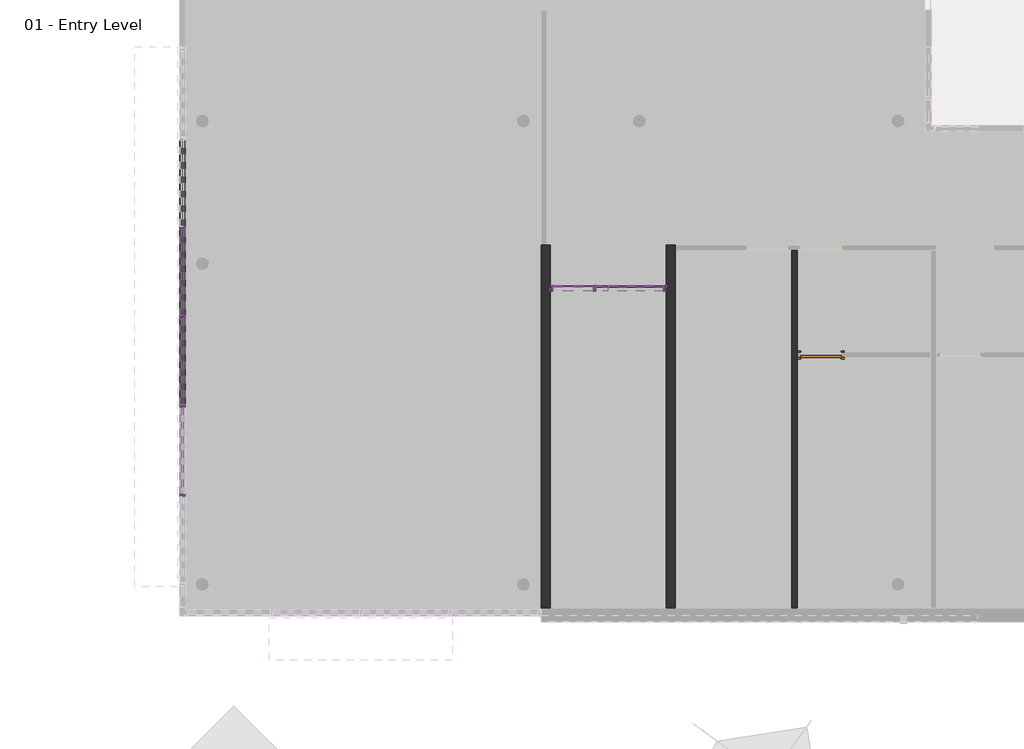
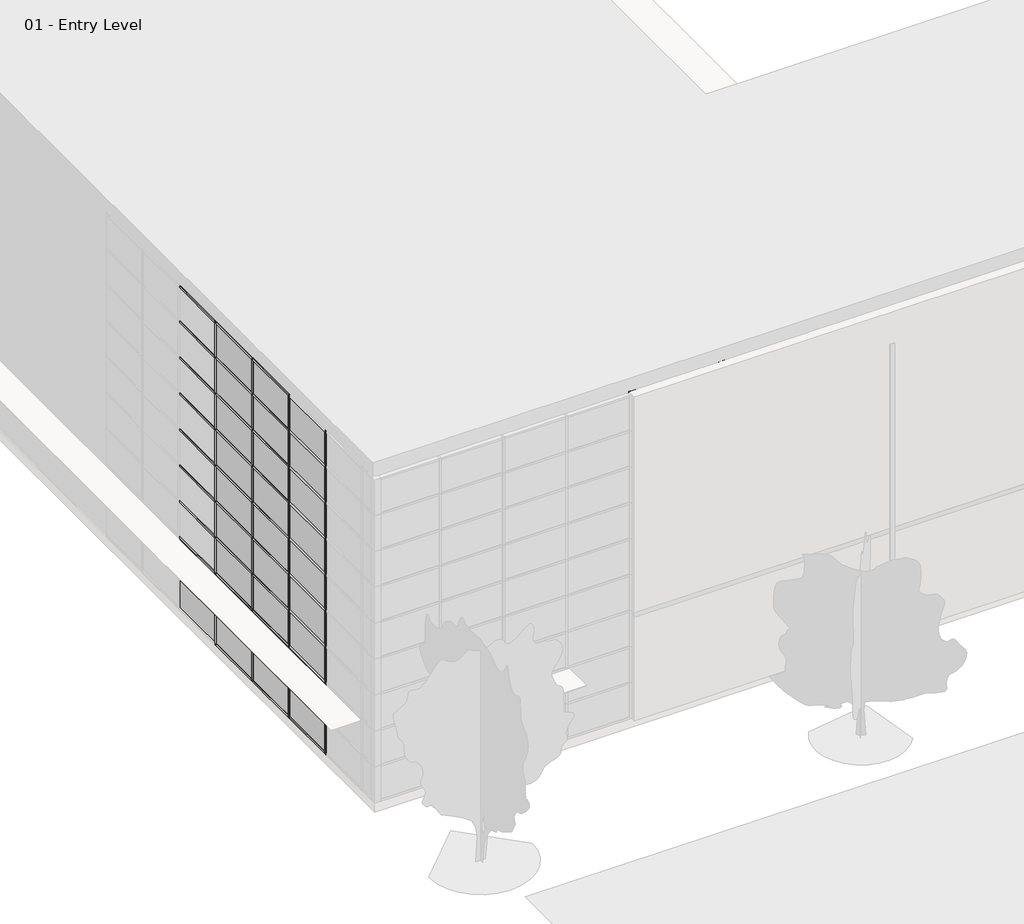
# One storey, part 7 of 34: 84 members, 33 plates, 3 walls, 2 doors.
"""IFC4 building model written with IfcOpenShell, lengths in millimetres."""

from ifc_helpers import new_model, si_unit, origin, place, context, project, spatial, faceted_brep, transform, mapped, element, save
from components import curtain_wall_sgl_glass_curtain_wall_sgl_glass_c2d4b377, door_a1797ceb, member_2b49869a, member_18e22e2d, member_9193c932, member_391b434c, member_9e90ae50, member_6186cc23, member_5d67b9fc, member_c327c56d, member_a50b3cda, member_410c6227, member_73c23c35, member_bcb6a316, member_d3323a85, member_7bd2cd2c, member_6be37683, system_panel_glazed_1b9d6098, system_panel_glazed_70da479d, system_panel_glazed_652e8fc4, system_panel_glazed_8dc8626f, system_panel_glazed_561e95a3, system_panel_glazed_c516a964, system_panel_solid_b376696c, system_panel_solid_77e8b053

model = new_model("IFC4")

# Units and contexts
model_context = context("Model", 3, world=origin())
ifc_project = project(units=[si_unit("LENGTHUNIT", "METRE", prefix="MILLI")], contexts=[model_context])

# Site, building, storey
site = spatial("IfcSite", under=ifc_project)
building = spatial("IfcBuilding", under=site)
storey = spatial("IfcBuildingStorey", under=building, Name="01 - Entry Level", Elevation=0.0)

# Doors
placement = place(None, origin())
curtain_wall_sgl_glass_curtain_wall_sgl_glass_shape = curtain_wall_sgl_glass_curtain_wall_sgl_glass_c2d4b377(model_context)
element("IfcDoor", 1, ObjectType="Curtain Wall Sgl Glass : Curtain Wall Sgl Glass", at=placement, inside=storey, context=model_context, shape_type="MappedRepresentation", body=[
    mapped(curtain_wall_sgl_glass_curtain_wall_sgl_glass_shape, transform((9081.4207476, 7356.4, 0.0), x_axis=(-1.0, 0.0, 0.0), y_axis=(0.0, -1.0, 0.0), z_axis=(0.0, 0.0, 1.0))),
])
door_shape = door_a1797ceb(model_context)
element("IfcDoor", 2, ObjectType="Single-Flush : 36\" x 84\"", at=placement, inside=storey, context=model_context, shape_type="MappedRepresentation", body=[
    mapped(door_shape, transform((14732.9207476, 5832.4, 0.0), x_axis=(-1.0, 0.0, 0.0), y_axis=(0.0, -1.0, 0.0), z_axis=(0.0, 0.0, 1.0))),
])

# Members
member_shape = member_2b49869a(model_context)
element("IfcMember", 3, ObjectType="Rectangular Mullion : 2.5\" x 5\" rectangular", at=placement, inside=storey, context=model_context, shape_type="MappedRepresentation", body=[
    mapped(member_shape, transform((178.7207476, 8728.0, 9753.6), x_axis=(0.0, -1.0, 0.0), y_axis=(-1.0, 0.0, 0.0), z_axis=(0.0, 0.0, -1.0))),
])
element("IfcMember", 4, ObjectType="Rectangular Mullion : 2.5\" x 5\" rectangular", at=placement, inside=storey, context=model_context, shape_type="MappedRepresentation", body=[
    mapped(member_shape, transform((178.7207476, 6696.0, 9753.6), x_axis=(0.0, -1.0, 0.0), y_axis=(-1.0, 0.0, 0.0), z_axis=(0.0, 0.0, -1.0))),
])
element("IfcMember", 5, ObjectType="Rectangular Mullion : 2.5\" x 5\" rectangular", at=placement, inside=storey, context=model_context, shape_type="MappedRepresentation", body=[
    mapped(member_shape, transform((178.7207476, 4664.0, 9753.6), x_axis=(0.0, -1.0, 0.0), y_axis=(-1.0, 0.0, 0.0), z_axis=(0.0, 0.0, -1.0))),
])
element("IfcMember", 6, ObjectType="Rectangular Mullion : 2.5\" x 5\" rectangular", at=placement, inside=storey, context=model_context, shape_type="MappedRepresentation", body=[
    mapped(member_shape, transform((178.7207476, 2632.0, 9753.6), x_axis=(0.0, -1.0, 0.0), y_axis=(-1.0, 0.0, 0.0), z_axis=(0.0, 0.0, -1.0))),
])
member_2_shape = member_18e22e2d(model_context)
element("IfcMember", 7, ObjectType="Rectangular Mullion : 2.5\" x 5\" rectangular", at=placement, inside=storey, context=model_context, shape_type="MappedRepresentation", body=[
    mapped(member_2_shape, transform((9570.3707476, 7356.4, 2438.4), x_axis=(-1.0, 0.0, 0.0), y_axis=(0.0, 1.0, 0.0), z_axis=(0.0, 0.0, -1.0))),
])
member_3_shape = member_9193c932(model_context)
element("IfcMember", 8, ObjectType="Rectangular Mullion : 2.5\" x 5\" rectangular", at=placement, inside=storey, context=model_context, shape_type="MappedRepresentation", body=[
    mapped(member_3_shape, transform((11202.3207476, 7356.4, 3403.6), x_axis=(1.0, 0.0, 0.0), y_axis=(0.0, 1.0, 0.0), z_axis=(0.0, 0.0, 1.0))),
])
element("IfcMember", 9, ObjectType="Rectangular Mullion : 2.5\" x 5\" rectangular", at=placement, inside=storey, context=model_context, shape_type="MappedRepresentation", body=[
    mapped(member_3_shape, transform((8560.7207476, 7356.4, 2438.4), x_axis=(-1.0, 0.0, 0.0), y_axis=(0.0, 1.0, 0.0), z_axis=(0.0, 0.0, -1.0))),
])
member_4_shape = member_391b434c(model_context)
element("IfcMember", 10, ObjectType="Rectangular Mullion : 2.5\" x 5\" rectangular", at=placement, inside=storey, context=model_context, shape_type="MappedRepresentation", body=[
    mapped(member_4_shape, transform((178.7207476, 8759.75, 10972.8), x_axis=(0.0, 0.0, 1.0), y_axis=(-1.0, 0.0, 0.0), z_axis=(0.0, -1.0, 0.0))),
])
element("IfcMember", 11, ObjectType="Rectangular Mullion : 2.5\" x 5\" rectangular", at=placement, inside=storey, context=model_context, shape_type="MappedRepresentation", body=[
    mapped(member_4_shape, transform((178.7207476, 6727.75, 10972.8), x_axis=(0.0, 0.0, 1.0), y_axis=(-1.0, 0.0, 0.0), z_axis=(0.0, -1.0, 0.0))),
])
element("IfcMember", 12, ObjectType="Rectangular Mullion : 2.5\" x 5\" rectangular", at=placement, inside=storey, context=model_context, shape_type="MappedRepresentation", body=[
    mapped(member_4_shape, transform((178.7207476, 4695.75, 10972.8), x_axis=(0.0, 0.0, 1.0), y_axis=(-1.0, 0.0, 0.0), z_axis=(0.0, -1.0, 0.0))),
])
element("IfcMember", 13, ObjectType="Rectangular Mullion : 2.5\" x 5\" rectangular", at=placement, inside=storey, context=model_context, shape_type="MappedRepresentation", body=[
    mapped(member_4_shape, transform((178.7207476, 8696.25, 0.0), x_axis=(0.0, 0.0, -1.0), y_axis=(-1.0, 0.0, 0.0), z_axis=(0.0, 1.0, 0.0))),
])
element("IfcMember", 14, ObjectType="Rectangular Mullion : 2.5\" x 5\" rectangular", at=placement, inside=storey, context=model_context, shape_type="MappedRepresentation", body=[
    mapped(member_4_shape, transform((178.7207476, 6664.25, 0.0), x_axis=(0.0, 0.0, -1.0), y_axis=(-1.0, 0.0, 0.0), z_axis=(0.0, 1.0, 0.0))),
])
element("IfcMember", 15, ObjectType="Rectangular Mullion : 2.5\" x 5\" rectangular", at=placement, inside=storey, context=model_context, shape_type="MappedRepresentation", body=[
    mapped(member_4_shape, transform((178.7207476, 4632.25, 0.0), x_axis=(0.0, 0.0, -1.0), y_axis=(-1.0, 0.0, 0.0), z_axis=(0.0, 1.0, 0.0))),
])
member_5_shape = member_9e90ae50(model_context)
element("IfcMember", 16, ObjectType="Rectangular Mullion : 2.5\" x 5\" rectangular", at=placement, inside=storey, context=model_context, shape_type="MappedRepresentation", body=[
    mapped(member_5_shape, transform((178.7207476, 8759.75, 1219.2), x_axis=(0.0, 0.0, 1.0), y_axis=(-1.0, 0.0, 0.0), z_axis=(0.0, -1.0, 0.0))),
])
element("IfcMember", 17, ObjectType="Rectangular Mullion : 2.5\" x 5\" rectangular", at=placement, inside=storey, context=model_context, shape_type="MappedRepresentation", body=[
    mapped(member_5_shape, transform((178.7207476, 6727.75, 1219.2), x_axis=(0.0, 0.0, 1.0), y_axis=(-1.0, 0.0, 0.0), z_axis=(0.0, -1.0, 0.0))),
])
element("IfcMember", 18, ObjectType="Rectangular Mullion : 2.5\" x 5\" rectangular", at=placement, inside=storey, context=model_context, shape_type="MappedRepresentation", body=[
    mapped(member_5_shape, transform((178.7207476, 4695.75, 1219.2), x_axis=(0.0, 0.0, 1.0), y_axis=(-1.0, 0.0, 0.0), z_axis=(0.0, -1.0, 0.0))),
])
element("IfcMember", 19, ObjectType="Rectangular Mullion : 2.5\" x 5\" rectangular", at=placement, inside=storey, context=model_context, shape_type="MappedRepresentation", body=[
    mapped(member_5_shape, transform((178.7207476, 8759.75, 2438.4), x_axis=(0.0, 0.0, 1.0), y_axis=(-1.0, 0.0, 0.0), z_axis=(0.0, -1.0, 0.0))),
])
element("IfcMember", 20, ObjectType="Rectangular Mullion : 2.5\" x 5\" rectangular", at=placement, inside=storey, context=model_context, shape_type="MappedRepresentation", body=[
    mapped(member_5_shape, transform((178.7207476, 6727.75, 2438.4), x_axis=(0.0, 0.0, 1.0), y_axis=(-1.0, 0.0, 0.0), z_axis=(0.0, -1.0, 0.0))),
])
element("IfcMember", 21, ObjectType="Rectangular Mullion : 2.5\" x 5\" rectangular", at=placement, inside=storey, context=model_context, shape_type="MappedRepresentation", body=[
    mapped(member_5_shape, transform((178.7207476, 4695.75, 2438.4), x_axis=(0.0, 0.0, 1.0), y_axis=(-1.0, 0.0, 0.0), z_axis=(0.0, -1.0, 0.0))),
])
element("IfcMember", 22, ObjectType="Rectangular Mullion : 2.5\" x 5\" rectangular", at=placement, inside=storey, context=model_context, shape_type="MappedRepresentation", body=[
    mapped(member_5_shape, transform((178.7207476, 8759.75, 3657.6), x_axis=(0.0, 0.0, 1.0), y_axis=(-1.0, 0.0, 0.0), z_axis=(0.0, -1.0, 0.0))),
])
element("IfcMember", 23, ObjectType="Rectangular Mullion : 2.5\" x 5\" rectangular", at=placement, inside=storey, context=model_context, shape_type="MappedRepresentation", body=[
    mapped(member_5_shape, transform((178.7207476, 6727.75, 3657.6), x_axis=(0.0, 0.0, 1.0), y_axis=(-1.0, 0.0, 0.0), z_axis=(0.0, -1.0, 0.0))),
])
element("IfcMember", 24, ObjectType="Rectangular Mullion : 2.5\" x 5\" rectangular", at=placement, inside=storey, context=model_context, shape_type="MappedRepresentation", body=[
    mapped(member_5_shape, transform((178.7207476, 4695.75, 3657.6), x_axis=(0.0, 0.0, 1.0), y_axis=(-1.0, 0.0, 0.0), z_axis=(0.0, -1.0, 0.0))),
])
element("IfcMember", 25, ObjectType="Rectangular Mullion : 2.5\" x 5\" rectangular", at=placement, inside=storey, context=model_context, shape_type="MappedRepresentation", body=[
    mapped(member_5_shape, transform((178.7207476, 8759.75, 4876.8), x_axis=(0.0, 0.0, 1.0), y_axis=(-1.0, 0.0, 0.0), z_axis=(0.0, -1.0, 0.0))),
])
element("IfcMember", 26, ObjectType="Rectangular Mullion : 2.5\" x 5\" rectangular", at=placement, inside=storey, context=model_context, shape_type="MappedRepresentation", body=[
    mapped(member_5_shape, transform((178.7207476, 6727.75, 4876.8), x_axis=(0.0, 0.0, 1.0), y_axis=(-1.0, 0.0, 0.0), z_axis=(0.0, -1.0, 0.0))),
])
element("IfcMember", 27, ObjectType="Rectangular Mullion : 2.5\" x 5\" rectangular", at=placement, inside=storey, context=model_context, shape_type="MappedRepresentation", body=[
    mapped(member_5_shape, transform((178.7207476, 4695.75, 4876.8), x_axis=(0.0, 0.0, 1.0), y_axis=(-1.0, 0.0, 0.0), z_axis=(0.0, -1.0, 0.0))),
])
element("IfcMember", 28, ObjectType="Rectangular Mullion : 2.5\" x 5\" rectangular", at=placement, inside=storey, context=model_context, shape_type="MappedRepresentation", body=[
    mapped(member_5_shape, transform((178.7207476, 8759.75, 6096.0), x_axis=(0.0, 0.0, 1.0), y_axis=(-1.0, 0.0, 0.0), z_axis=(0.0, -1.0, 0.0))),
])
element("IfcMember", 29, ObjectType="Rectangular Mullion : 2.5\" x 5\" rectangular", at=placement, inside=storey, context=model_context, shape_type="MappedRepresentation", body=[
    mapped(member_5_shape, transform((178.7207476, 6727.75, 6096.0), x_axis=(0.0, 0.0, 1.0), y_axis=(-1.0, 0.0, 0.0), z_axis=(0.0, -1.0, 0.0))),
])
element("IfcMember", 30, ObjectType="Rectangular Mullion : 2.5\" x 5\" rectangular", at=placement, inside=storey, context=model_context, shape_type="MappedRepresentation", body=[
    mapped(member_5_shape, transform((178.7207476, 4695.75, 6096.0), x_axis=(0.0, 0.0, 1.0), y_axis=(-1.0, 0.0, 0.0), z_axis=(0.0, -1.0, 0.0))),
])
element("IfcMember", 31, ObjectType="Rectangular Mullion : 2.5\" x 5\" rectangular", at=placement, inside=storey, context=model_context, shape_type="MappedRepresentation", body=[
    mapped(member_5_shape, transform((178.7207476, 8759.75, 7315.2), x_axis=(0.0, 0.0, 1.0), y_axis=(-1.0, 0.0, 0.0), z_axis=(0.0, -1.0, 0.0))),
])
element("IfcMember", 32, ObjectType="Rectangular Mullion : 2.5\" x 5\" rectangular", at=placement, inside=storey, context=model_context, shape_type="MappedRepresentation", body=[
    mapped(member_5_shape, transform((178.7207476, 6727.75, 7315.2), x_axis=(0.0, 0.0, 1.0), y_axis=(-1.0, 0.0, 0.0), z_axis=(0.0, -1.0, 0.0))),
])
element("IfcMember", 33, ObjectType="Rectangular Mullion : 2.5\" x 5\" rectangular", at=placement, inside=storey, context=model_context, shape_type="MappedRepresentation", body=[
    mapped(member_5_shape, transform((178.7207476, 4695.75, 7315.2), x_axis=(0.0, 0.0, 1.0), y_axis=(-1.0, 0.0, 0.0), z_axis=(0.0, -1.0, 0.0))),
])
element("IfcMember", 34, ObjectType="Rectangular Mullion : 2.5\" x 5\" rectangular", at=placement, inside=storey, context=model_context, shape_type="MappedRepresentation", body=[
    mapped(member_5_shape, transform((178.7207476, 8759.75, 8534.4), x_axis=(0.0, 0.0, 1.0), y_axis=(-1.0, 0.0, 0.0), z_axis=(0.0, -1.0, 0.0))),
])
element("IfcMember", 35, ObjectType="Rectangular Mullion : 2.5\" x 5\" rectangular", at=placement, inside=storey, context=model_context, shape_type="MappedRepresentation", body=[
    mapped(member_5_shape, transform((178.7207476, 6727.75, 8534.4), x_axis=(0.0, 0.0, 1.0), y_axis=(-1.0, 0.0, 0.0), z_axis=(0.0, -1.0, 0.0))),
])
element("IfcMember", 36, ObjectType="Rectangular Mullion : 2.5\" x 5\" rectangular", at=placement, inside=storey, context=model_context, shape_type="MappedRepresentation", body=[
    mapped(member_5_shape, transform((178.7207476, 4695.75, 8534.4), x_axis=(0.0, 0.0, 1.0), y_axis=(-1.0, 0.0, 0.0), z_axis=(0.0, -1.0, 0.0))),
])
element("IfcMember", 37, ObjectType="Rectangular Mullion : 2.5\" x 5\" rectangular", at=placement, inside=storey, context=model_context, shape_type="MappedRepresentation", body=[
    mapped(member_5_shape, transform((178.7207476, 8759.75, 9753.6), x_axis=(0.0, 0.0, 1.0), y_axis=(-1.0, 0.0, 0.0), z_axis=(0.0, -1.0, 0.0))),
])
element("IfcMember", 38, ObjectType="Rectangular Mullion : 2.5\" x 5\" rectangular", at=placement, inside=storey, context=model_context, shape_type="MappedRepresentation", body=[
    mapped(member_5_shape, transform((178.7207476, 6727.75, 9753.6), x_axis=(0.0, 0.0, 1.0), y_axis=(-1.0, 0.0, 0.0), z_axis=(0.0, -1.0, 0.0))),
])
element("IfcMember", 39, ObjectType="Rectangular Mullion : 2.5\" x 5\" rectangular", at=placement, inside=storey, context=model_context, shape_type="MappedRepresentation", body=[
    mapped(member_5_shape, transform((178.7207476, 4695.75, 9753.6), x_axis=(0.0, 0.0, 1.0), y_axis=(-1.0, 0.0, 0.0), z_axis=(0.0, -1.0, 0.0))),
])
element("IfcMember", 40, ObjectType="Rectangular Mullion : 2.5\" x 5\" rectangular", at=placement, inside=storey, context=model_context, shape_type="MappedRepresentation", body=[
    mapped(member_shape, transform((178.7207476, 8728.0, 0.0), x_axis=(0.0, -1.0, 0.0), y_axis=(-1.0, 0.0, 0.0), z_axis=(0.0, 0.0, -1.0))),
])
element("IfcMember", 41, ObjectType="Rectangular Mullion : 2.5\" x 5\" rectangular", at=placement, inside=storey, context=model_context, shape_type="MappedRepresentation", body=[
    mapped(member_shape, transform((178.7207476, 6696.0, 0.0), x_axis=(0.0, -1.0, 0.0), y_axis=(-1.0, 0.0, 0.0), z_axis=(0.0, 0.0, -1.0))),
])
element("IfcMember", 42, ObjectType="Rectangular Mullion : 2.5\" x 5\" rectangular", at=placement, inside=storey, context=model_context, shape_type="MappedRepresentation", body=[
    mapped(member_shape, transform((178.7207476, 4664.0, 0.0), x_axis=(0.0, -1.0, 0.0), y_axis=(-1.0, 0.0, 0.0), z_axis=(0.0, 0.0, -1.0))),
])
element("IfcMember", 43, ObjectType="Rectangular Mullion : 2.5\" x 5\" rectangular", at=placement, inside=storey, context=model_context, shape_type="MappedRepresentation", body=[
    mapped(member_shape, transform((178.7207476, 2632.0, 0.0), x_axis=(0.0, -1.0, 0.0), y_axis=(-1.0, 0.0, 0.0), z_axis=(0.0, 0.0, -1.0))),
])
element("IfcMember", 44, ObjectType="Rectangular Mullion : 2.5\" x 5\" rectangular", at=placement, inside=storey, context=model_context, shape_type="MappedRepresentation", body=[
    mapped(member_shape, transform((178.7207476, 8728.0, 1219.2), x_axis=(0.0, -1.0, 0.0), y_axis=(-1.0, 0.0, 0.0), z_axis=(0.0, 0.0, -1.0))),
])
element("IfcMember", 45, ObjectType="Rectangular Mullion : 2.5\" x 5\" rectangular", at=placement, inside=storey, context=model_context, shape_type="MappedRepresentation", body=[
    mapped(member_shape, transform((178.7207476, 6696.0, 1219.2), x_axis=(0.0, -1.0, 0.0), y_axis=(-1.0, 0.0, 0.0), z_axis=(0.0, 0.0, -1.0))),
])
element("IfcMember", 46, ObjectType="Rectangular Mullion : 2.5\" x 5\" rectangular", at=placement, inside=storey, context=model_context, shape_type="MappedRepresentation", body=[
    mapped(member_shape, transform((178.7207476, 4664.0, 1219.2), x_axis=(0.0, -1.0, 0.0), y_axis=(-1.0, 0.0, 0.0), z_axis=(0.0, 0.0, -1.0))),
])
element("IfcMember", 47, ObjectType="Rectangular Mullion : 2.5\" x 5\" rectangular", at=placement, inside=storey, context=model_context, shape_type="MappedRepresentation", body=[
    mapped(member_shape, transform((178.7207476, 2632.0, 1219.2), x_axis=(0.0, -1.0, 0.0), y_axis=(-1.0, 0.0, 0.0), z_axis=(0.0, 0.0, -1.0))),
])
element("IfcMember", 48, ObjectType="Rectangular Mullion : 2.5\" x 5\" rectangular", at=placement, inside=storey, context=model_context, shape_type="MappedRepresentation", body=[
    mapped(member_shape, transform((178.7207476, 8728.0, 2438.4), x_axis=(0.0, -1.0, 0.0), y_axis=(-1.0, 0.0, 0.0), z_axis=(0.0, 0.0, -1.0))),
])
element("IfcMember", 49, ObjectType="Rectangular Mullion : 2.5\" x 5\" rectangular", at=placement, inside=storey, context=model_context, shape_type="MappedRepresentation", body=[
    mapped(member_shape, transform((178.7207476, 6696.0, 2438.4), x_axis=(0.0, -1.0, 0.0), y_axis=(-1.0, 0.0, 0.0), z_axis=(0.0, 0.0, -1.0))),
])
element("IfcMember", 50, ObjectType="Rectangular Mullion : 2.5\" x 5\" rectangular", at=placement, inside=storey, context=model_context, shape_type="MappedRepresentation", body=[
    mapped(member_shape, transform((178.7207476, 4664.0, 2438.4), x_axis=(0.0, -1.0, 0.0), y_axis=(-1.0, 0.0, 0.0), z_axis=(0.0, 0.0, -1.0))),
])
element("IfcMember", 51, ObjectType="Rectangular Mullion : 2.5\" x 5\" rectangular", at=placement, inside=storey, context=model_context, shape_type="MappedRepresentation", body=[
    mapped(member_shape, transform((178.7207476, 2632.0, 2438.4), x_axis=(0.0, -1.0, 0.0), y_axis=(-1.0, 0.0, 0.0), z_axis=(0.0, 0.0, -1.0))),
])
element("IfcMember", 52, ObjectType="Rectangular Mullion : 2.5\" x 5\" rectangular", at=placement, inside=storey, context=model_context, shape_type="MappedRepresentation", body=[
    mapped(member_shape, transform((178.7207476, 8728.0, 3657.6), x_axis=(0.0, -1.0, 0.0), y_axis=(-1.0, 0.0, 0.0), z_axis=(0.0, 0.0, -1.0))),
])
element("IfcMember", 53, ObjectType="Rectangular Mullion : 2.5\" x 5\" rectangular", at=placement, inside=storey, context=model_context, shape_type="MappedRepresentation", body=[
    mapped(member_shape, transform((178.7207476, 6696.0, 3657.6), x_axis=(0.0, -1.0, 0.0), y_axis=(-1.0, 0.0, 0.0), z_axis=(0.0, 0.0, -1.0))),
])
element("IfcMember", 54, ObjectType="Rectangular Mullion : 2.5\" x 5\" rectangular", at=placement, inside=storey, context=model_context, shape_type="MappedRepresentation", body=[
    mapped(member_shape, transform((178.7207476, 4664.0, 3657.6), x_axis=(0.0, -1.0, 0.0), y_axis=(-1.0, 0.0, 0.0), z_axis=(0.0, 0.0, -1.0))),
])
element("IfcMember", 55, ObjectType="Rectangular Mullion : 2.5\" x 5\" rectangular", at=placement, inside=storey, context=model_context, shape_type="MappedRepresentation", body=[
    mapped(member_shape, transform((178.7207476, 2632.0, 3657.6), x_axis=(0.0, -1.0, 0.0), y_axis=(-1.0, 0.0, 0.0), z_axis=(0.0, 0.0, -1.0))),
])
element("IfcMember", 56, ObjectType="Rectangular Mullion : 2.5\" x 5\" rectangular", at=placement, inside=storey, context=model_context, shape_type="MappedRepresentation", body=[
    mapped(member_shape, transform((178.7207476, 8728.0, 4876.8), x_axis=(0.0, -1.0, 0.0), y_axis=(-1.0, 0.0, 0.0), z_axis=(0.0, 0.0, -1.0))),
])
element("IfcMember", 57, ObjectType="Rectangular Mullion : 2.5\" x 5\" rectangular", at=placement, inside=storey, context=model_context, shape_type="MappedRepresentation", body=[
    mapped(member_shape, transform((178.7207476, 6696.0, 4876.8), x_axis=(0.0, -1.0, 0.0), y_axis=(-1.0, 0.0, 0.0), z_axis=(0.0, 0.0, -1.0))),
])
element("IfcMember", 58, ObjectType="Rectangular Mullion : 2.5\" x 5\" rectangular", at=placement, inside=storey, context=model_context, shape_type="MappedRepresentation", body=[
    mapped(member_shape, transform((178.7207476, 4664.0, 4876.8), x_axis=(0.0, -1.0, 0.0), y_axis=(-1.0, 0.0, 0.0), z_axis=(0.0, 0.0, -1.0))),
])
element("IfcMember", 59, ObjectType="Rectangular Mullion : 2.5\" x 5\" rectangular", at=placement, inside=storey, context=model_context, shape_type="MappedRepresentation", body=[
    mapped(member_shape, transform((178.7207476, 2632.0, 4876.8), x_axis=(0.0, -1.0, 0.0), y_axis=(-1.0, 0.0, 0.0), z_axis=(0.0, 0.0, -1.0))),
])
element("IfcMember", 60, ObjectType="Rectangular Mullion : 2.5\" x 5\" rectangular", at=placement, inside=storey, context=model_context, shape_type="MappedRepresentation", body=[
    mapped(member_shape, transform((178.7207476, 8728.0, 6096.0), x_axis=(0.0, -1.0, 0.0), y_axis=(-1.0, 0.0, 0.0), z_axis=(0.0, 0.0, -1.0))),
])
element("IfcMember", 61, ObjectType="Rectangular Mullion : 2.5\" x 5\" rectangular", at=placement, inside=storey, context=model_context, shape_type="MappedRepresentation", body=[
    mapped(member_shape, transform((178.7207476, 6696.0, 6096.0), x_axis=(0.0, -1.0, 0.0), y_axis=(-1.0, 0.0, 0.0), z_axis=(0.0, 0.0, -1.0))),
])
element("IfcMember", 62, ObjectType="Rectangular Mullion : 2.5\" x 5\" rectangular", at=placement, inside=storey, context=model_context, shape_type="MappedRepresentation", body=[
    mapped(member_shape, transform((178.7207476, 4664.0, 6096.0), x_axis=(0.0, -1.0, 0.0), y_axis=(-1.0, 0.0, 0.0), z_axis=(0.0, 0.0, -1.0))),
])
element("IfcMember", 63, ObjectType="Rectangular Mullion : 2.5\" x 5\" rectangular", at=placement, inside=storey, context=model_context, shape_type="MappedRepresentation", body=[
    mapped(member_shape, transform((178.7207476, 2632.0, 6096.0), x_axis=(0.0, -1.0, 0.0), y_axis=(-1.0, 0.0, 0.0), z_axis=(0.0, 0.0, -1.0))),
])
element("IfcMember", 64, ObjectType="Rectangular Mullion : 2.5\" x 5\" rectangular", at=placement, inside=storey, context=model_context, shape_type="MappedRepresentation", body=[
    mapped(member_shape, transform((178.7207476, 8728.0, 7315.2), x_axis=(0.0, -1.0, 0.0), y_axis=(-1.0, 0.0, 0.0), z_axis=(0.0, 0.0, -1.0))),
])
element("IfcMember", 65, ObjectType="Rectangular Mullion : 2.5\" x 5\" rectangular", at=placement, inside=storey, context=model_context, shape_type="MappedRepresentation", body=[
    mapped(member_shape, transform((178.7207476, 6696.0, 7315.2), x_axis=(0.0, -1.0, 0.0), y_axis=(-1.0, 0.0, 0.0), z_axis=(0.0, 0.0, -1.0))),
])
element("IfcMember", 66, ObjectType="Rectangular Mullion : 2.5\" x 5\" rectangular", at=placement, inside=storey, context=model_context, shape_type="MappedRepresentation", body=[
    mapped(member_shape, transform((178.7207476, 4664.0, 7315.2), x_axis=(0.0, -1.0, 0.0), y_axis=(-1.0, 0.0, 0.0), z_axis=(0.0, 0.0, -1.0))),
])
element("IfcMember", 67, ObjectType="Rectangular Mullion : 2.5\" x 5\" rectangular", at=placement, inside=storey, context=model_context, shape_type="MappedRepresentation", body=[
    mapped(member_shape, transform((178.7207476, 2632.0, 7315.2), x_axis=(0.0, -1.0, 0.0), y_axis=(-1.0, 0.0, 0.0), z_axis=(0.0, 0.0, -1.0))),
])
element("IfcMember", 68, ObjectType="Rectangular Mullion : 2.5\" x 5\" rectangular", at=placement, inside=storey, context=model_context, shape_type="MappedRepresentation", body=[
    mapped(member_shape, transform((178.7207476, 8728.0, 8534.4), x_axis=(0.0, -1.0, 0.0), y_axis=(-1.0, 0.0, 0.0), z_axis=(0.0, 0.0, -1.0))),
])
element("IfcMember", 69, ObjectType="Rectangular Mullion : 2.5\" x 5\" rectangular", at=placement, inside=storey, context=model_context, shape_type="MappedRepresentation", body=[
    mapped(member_shape, transform((178.7207476, 6696.0, 8534.4), x_axis=(0.0, -1.0, 0.0), y_axis=(-1.0, 0.0, 0.0), z_axis=(0.0, 0.0, -1.0))),
])
element("IfcMember", 70, ObjectType="Rectangular Mullion : 2.5\" x 5\" rectangular", at=placement, inside=storey, context=model_context, shape_type="MappedRepresentation", body=[
    mapped(member_shape, transform((178.7207476, 4664.0, 8534.4), x_axis=(0.0, -1.0, 0.0), y_axis=(-1.0, 0.0, 0.0), z_axis=(0.0, 0.0, -1.0))),
])
element("IfcMember", 71, ObjectType="Rectangular Mullion : 2.5\" x 5\" rectangular", at=placement, inside=storey, context=model_context, shape_type="MappedRepresentation", body=[
    mapped(member_shape, transform((178.7207476, 2632.0, 8534.4), x_axis=(0.0, -1.0, 0.0), y_axis=(-1.0, 0.0, 0.0), z_axis=(0.0, 0.0, -1.0))),
])
member_6_shape = member_6186cc23(model_context)
element("IfcMember", 72, ObjectType="Rectangular Mullion : 2.5\" x 5\" rectangular", at=placement, inside=storey, context=model_context, shape_type="MappedRepresentation", body=[
    mapped(member_6_shape, transform((9570.3707476, 7356.4, 0.0), x_axis=(-1.0, 0.0, 0.0), y_axis=(0.0, 1.0, 0.0), z_axis=(0.0, 0.0, -1.0))),
])
member_7_shape = member_5d67b9fc(model_context)
element("IfcMember", 73, ObjectType="Rectangular Mullion : 2.5\" x 5\" rectangular", at=placement, inside=storey, context=model_context, shape_type="MappedRepresentation", body=[
    mapped(member_7_shape, transform((9570.3707476, 7356.4, 2165.35), x_axis=(-1.0, 0.0, 0.0), y_axis=(0.0, 1.0, 0.0), z_axis=(0.0, 0.0, -1.0))),
])
member_8_shape = member_c327c56d(model_context)
element("IfcMember", 74, ObjectType="Rectangular Mullion : 2.5\" x 5\" rectangular", at=placement, inside=storey, context=model_context, shape_type="MappedRepresentation", body=[
    mapped(member_8_shape, transform((11202.3207476, 7356.4, 2438.4), x_axis=(1.0, 0.0, 0.0), y_axis=(0.0, 1.0, 0.0), z_axis=(0.0, 0.0, 1.0))),
])
member_9_shape = member_a50b3cda(model_context)
element("IfcMember", 75, ObjectType="Rectangular Mullion : 2.5\" x 5\" rectangular", at=placement, inside=storey, context=model_context, shape_type="MappedRepresentation", body=[
    mapped(member_9_shape, transform((11202.3207476, 7356.4, 2165.35), x_axis=(1.0, 0.0, 0.0), y_axis=(0.0, 1.0, 0.0), z_axis=(0.0, 0.0, 1.0))),
])
member_10_shape = member_410c6227(model_context)
element("IfcMember", 76, ObjectType="Rectangular Mullion : 2.5\" x 5\" rectangular", at=placement, inside=storey, context=model_context, shape_type="MappedRepresentation", body=[
    mapped(member_10_shape, transform((8624.2207476, 7356.4, 2438.4), x_axis=(0.0, 0.0, 1.0), y_axis=(0.0, 1.0, 0.0), z_axis=(-1.0, 0.0, 0.0))),
])
element("IfcMember", 77, ObjectType="Rectangular Mullion : 2.5\" x 5\" rectangular", at=placement, inside=storey, context=model_context, shape_type="MappedRepresentation", body=[
    mapped(member_10_shape, transform((8624.2207476, 7356.4, 2165.35), x_axis=(0.0, 0.0, 1.0), y_axis=(0.0, 1.0, 0.0), z_axis=(-1.0, 0.0, 0.0))),
])
member_11_shape = member_73c23c35(model_context)
element("IfcMember", 78, ObjectType="Rectangular Mullion : 2.5\" x 5\" rectangular", at=placement, inside=storey, context=model_context, shape_type="MappedRepresentation", body=[
    mapped(member_11_shape, transform((8624.2207476, 7356.4, 3403.6), x_axis=(0.0, 0.0, 1.0), y_axis=(0.0, 1.0, 0.0), z_axis=(-1.0, 0.0, 0.0))),
])
element("IfcMember", 79, ObjectType="Rectangular Mullion : 2.5\" x 5\" rectangular", at=placement, inside=storey, context=model_context, shape_type="MappedRepresentation", body=[
    mapped(member_9_shape, transform((8560.7207476, 7356.4, 0.0), x_axis=(-1.0, 0.0, 0.0), y_axis=(0.0, 1.0, 0.0), z_axis=(0.0, 0.0, -1.0))),
])
element("IfcMember", 80, ObjectType="Rectangular Mullion : 2.5\" x 5\" rectangular", at=placement, inside=storey, context=model_context, shape_type="MappedRepresentation", body=[
    mapped(member_8_shape, transform((8560.7207476, 7356.4, 2165.35), x_axis=(-1.0, 0.0, 0.0), y_axis=(0.0, 1.0, 0.0), z_axis=(0.0, 0.0, -1.0))),
])
member_12_shape = member_bcb6a316(model_context)
element("IfcMember", 81, ObjectType="Rectangular Mullion : 2.5\" x 5\" rectangular", at=placement, inside=storey, context=model_context, shape_type="MappedRepresentation", body=[
    mapped(member_12_shape, transform((11138.8207476, 7356.4, 0.0), x_axis=(0.0, 0.0, -1.0), y_axis=(0.0, 1.0, 0.0), z_axis=(1.0, 0.0, 0.0))),
])
member_13_shape = member_d3323a85(model_context)
element("IfcMember", 82, ObjectType="Rectangular Mullion : 2.5\" x 5\" rectangular", at=placement, inside=storey, context=model_context, shape_type="MappedRepresentation", body=[
    mapped(member_13_shape, transform((9881.5207476, 7356.4, 0.0), x_axis=(0.0, 0.0, -1.0), y_axis=(0.0, 1.0, 0.0), z_axis=(1.0, 0.0, 0.0))),
])
member_14_shape = member_7bd2cd2c(model_context)
element("IfcMember", 83, ObjectType="Rectangular Mullion : 2.5\" x 5\" rectangular", at=placement, inside=storey, context=model_context, shape_type="MappedRepresentation", body=[
    mapped(member_14_shape, transform((9881.5207476, 7356.4, 2438.4), x_axis=(0.0, 0.0, 1.0), y_axis=(0.0, 1.0, 0.0), z_axis=(-1.0, 0.0, 0.0))),
])
member_15_shape = member_6be37683(model_context)
element("IfcMember", 84, ObjectType="Rectangular Mullion : 2.5\" x 5\" rectangular", at=placement, inside=storey, context=model_context, shape_type="MappedRepresentation", body=[
    mapped(member_15_shape, transform((9602.1207476, 7356.4, 2438.4), x_axis=(0.0, 0.0, 1.0), y_axis=(0.0, 1.0, 0.0), z_axis=(-1.0, 0.0, 0.0))),
])
element("IfcMember", 85, ObjectType="Rectangular Mullion : 2.5\" x 5\" rectangular", at=placement, inside=storey, context=model_context, shape_type="MappedRepresentation", body=[
    mapped(member_12_shape, transform((9881.5207476, 7356.4, 3403.6), x_axis=(0.0, 0.0, 1.0), y_axis=(0.0, 1.0, 0.0), z_axis=(-1.0, 0.0, 0.0))),
])
element("IfcMember", 86, ObjectType="Rectangular Mullion : 2.5\" x 5\" rectangular", at=placement, inside=storey, context=model_context, shape_type="MappedRepresentation", body=[
    mapped(member_13_shape, transform((9602.1207476, 7356.4, 3403.6), x_axis=(0.0, 0.0, 1.0), y_axis=(0.0, 1.0, 0.0), z_axis=(-1.0, 0.0, 0.0))),
])

# Plates
system_panel_glazed_shape = system_panel_glazed_1b9d6098(model_context)
element("IfcPlate", 87, ObjectType="System Panel : Glazed", at=placement, inside=storey, context=model_context, shape_type="MappedRepresentation", body=[
    mapped(system_panel_glazed_shape, transform((178.7207476, 9744.0, 63.5), x_axis=(0.0, -1.0, 0.0), y_axis=(1.0, 0.0, 0.0), z_axis=(0.0, 0.0, 1.0))),
])
element("IfcPlate", 88, ObjectType="System Panel : Glazed", at=placement, inside=storey, context=model_context, shape_type="MappedRepresentation", body=[
    mapped(system_panel_glazed_shape, transform((178.7207476, 7712.0, 63.5), x_axis=(0.0, -1.0, 0.0), y_axis=(1.0, 0.0, 0.0), z_axis=(0.0, 0.0, 1.0))),
])
element("IfcPlate", 89, ObjectType="System Panel : Glazed", at=placement, inside=storey, context=model_context, shape_type="MappedRepresentation", body=[
    mapped(system_panel_glazed_shape, transform((178.7207476, 5680.0, 63.5), x_axis=(0.0, -1.0, 0.0), y_axis=(1.0, 0.0, 0.0), z_axis=(0.0, 0.0, 1.0))),
])
element("IfcPlate", 90, ObjectType="System Panel : Glazed", at=placement, inside=storey, context=model_context, shape_type="MappedRepresentation", body=[
    mapped(system_panel_glazed_shape, transform((178.7207476, 3648.0, 63.5), x_axis=(0.0, -1.0, 0.0), y_axis=(1.0, 0.0, 0.0), z_axis=(0.0, 0.0, 1.0))),
])
system_panel_glazed_2_shape = system_panel_glazed_70da479d(model_context)
element("IfcPlate", 91, ObjectType="System Panel : Glazed", at=placement, inside=storey, context=model_context, shape_type="MappedRepresentation", body=[
    mapped(system_panel_glazed_2_shape, transform((178.7207476, 9744.0, 1250.95), x_axis=(0.0, -1.0, 0.0), y_axis=(1.0, 0.0, 0.0), z_axis=(0.0, 0.0, 1.0))),
])
element("IfcPlate", 92, ObjectType="System Panel : Glazed", at=placement, inside=storey, context=model_context, shape_type="MappedRepresentation", body=[
    mapped(system_panel_glazed_2_shape, transform((178.7207476, 7712.0, 1250.95), x_axis=(0.0, -1.0, 0.0), y_axis=(1.0, 0.0, 0.0), z_axis=(0.0, 0.0, 1.0))),
])
element("IfcPlate", 93, ObjectType="System Panel : Glazed", at=placement, inside=storey, context=model_context, shape_type="MappedRepresentation", body=[
    mapped(system_panel_glazed_2_shape, transform((178.7207476, 5680.0, 1250.95), x_axis=(0.0, -1.0, 0.0), y_axis=(1.0, 0.0, 0.0), z_axis=(0.0, 0.0, 1.0))),
])
element("IfcPlate", 94, ObjectType="System Panel : Glazed", at=placement, inside=storey, context=model_context, shape_type="MappedRepresentation", body=[
    mapped(system_panel_glazed_2_shape, transform((178.7207476, 3648.0, 1250.95), x_axis=(0.0, -1.0, 0.0), y_axis=(1.0, 0.0, 0.0), z_axis=(0.0, 0.0, 1.0))),
])
element("IfcPlate", 95, ObjectType="System Panel : Glazed", at=placement, inside=storey, context=model_context, shape_type="MappedRepresentation", body=[
    mapped(system_panel_glazed_2_shape, transform((178.7207476, 7712.0, 3689.35), x_axis=(0.0, -1.0, 0.0), y_axis=(1.0, 0.0, 0.0), z_axis=(0.0, 0.0, 1.0))),
])
element("IfcPlate", 96, ObjectType="System Panel : Glazed", at=placement, inside=storey, context=model_context, shape_type="MappedRepresentation", body=[
    mapped(system_panel_glazed_2_shape, transform((178.7207476, 5680.0, 3689.35), x_axis=(0.0, -1.0, 0.0), y_axis=(1.0, 0.0, 0.0), z_axis=(0.0, 0.0, 1.0))),
])
element("IfcPlate", 97, ObjectType="System Panel : Glazed", at=placement, inside=storey, context=model_context, shape_type="MappedRepresentation", body=[
    mapped(system_panel_glazed_2_shape, transform((178.7207476, 3648.0, 3689.35), x_axis=(0.0, -1.0, 0.0), y_axis=(1.0, 0.0, 0.0), z_axis=(0.0, 0.0, 1.0))),
])
element("IfcPlate", 98, ObjectType="System Panel : Glazed", at=placement, inside=storey, context=model_context, shape_type="MappedRepresentation", body=[
    mapped(system_panel_glazed_2_shape, transform((178.7207476, 7712.0, 4908.55), x_axis=(0.0, -1.0, 0.0), y_axis=(1.0, 0.0, 0.0), z_axis=(0.0, 0.0, 1.0))),
])
element("IfcPlate", 99, ObjectType="System Panel : Glazed", at=placement, inside=storey, context=model_context, shape_type="MappedRepresentation", body=[
    mapped(system_panel_glazed_2_shape, transform((178.7207476, 5680.0, 4908.55), x_axis=(0.0, -1.0, 0.0), y_axis=(1.0, 0.0, 0.0), z_axis=(0.0, 0.0, 1.0))),
])
element("IfcPlate", 100, ObjectType="System Panel : Glazed", at=placement, inside=storey, context=model_context, shape_type="MappedRepresentation", body=[
    mapped(system_panel_glazed_2_shape, transform((178.7207476, 3648.0, 4908.55), x_axis=(0.0, -1.0, 0.0), y_axis=(1.0, 0.0, 0.0), z_axis=(0.0, 0.0, 1.0))),
])
element("IfcPlate", 101, ObjectType="System Panel : Glazed", at=placement, inside=storey, context=model_context, shape_type="MappedRepresentation", body=[
    mapped(system_panel_glazed_2_shape, transform((178.7207476, 7712.0, 7346.95), x_axis=(0.0, -1.0, 0.0), y_axis=(1.0, 0.0, 0.0), z_axis=(0.0, 0.0, 1.0))),
])
element("IfcPlate", 102, ObjectType="System Panel : Glazed", at=placement, inside=storey, context=model_context, shape_type="MappedRepresentation", body=[
    mapped(system_panel_glazed_2_shape, transform((178.7207476, 5680.0, 7346.95), x_axis=(0.0, -1.0, 0.0), y_axis=(1.0, 0.0, 0.0), z_axis=(0.0, 0.0, 1.0))),
])
element("IfcPlate", 103, ObjectType="System Panel : Glazed", at=placement, inside=storey, context=model_context, shape_type="MappedRepresentation", body=[
    mapped(system_panel_glazed_2_shape, transform((178.7207476, 3648.0, 7346.95), x_axis=(0.0, -1.0, 0.0), y_axis=(1.0, 0.0, 0.0), z_axis=(0.0, 0.0, 1.0))),
])
element("IfcPlate", 104, ObjectType="System Panel : Glazed", at=placement, inside=storey, context=model_context, shape_type="MappedRepresentation", body=[
    mapped(system_panel_glazed_2_shape, transform((178.7207476, 7712.0, 8566.15), x_axis=(0.0, -1.0, 0.0), y_axis=(1.0, 0.0, 0.0), z_axis=(0.0, 0.0, 1.0))),
])
element("IfcPlate", 105, ObjectType="System Panel : Glazed", at=placement, inside=storey, context=model_context, shape_type="MappedRepresentation", body=[
    mapped(system_panel_glazed_2_shape, transform((178.7207476, 5680.0, 8566.15), x_axis=(0.0, -1.0, 0.0), y_axis=(1.0, 0.0, 0.0), z_axis=(0.0, 0.0, 1.0))),
])
element("IfcPlate", 106, ObjectType="System Panel : Glazed", at=placement, inside=storey, context=model_context, shape_type="MappedRepresentation", body=[
    mapped(system_panel_glazed_2_shape, transform((178.7207476, 3648.0, 8566.15), x_axis=(0.0, -1.0, 0.0), y_axis=(1.0, 0.0, 0.0), z_axis=(0.0, 0.0, 1.0))),
])
system_panel_glazed_3_shape = system_panel_glazed_652e8fc4(model_context)
element("IfcPlate", 107, ObjectType="System Panel : Glazed", at=placement, inside=storey, context=model_context, shape_type="MappedRepresentation", body=[
    mapped(system_panel_glazed_3_shape, transform((9081.4207476, 7356.4, 2470.15), x_axis=(-1.0, 0.0, 0.0), y_axis=(0.0, -1.0, 0.0), z_axis=(0.0, 0.0, 1.0))),
])
system_panel_glazed_4_shape = system_panel_glazed_8dc8626f(model_context)
element("IfcPlate", 108, ObjectType="System Panel : Glazed", at=placement, inside=storey, context=model_context, shape_type="MappedRepresentation", body=[
    mapped(system_panel_glazed_4_shape, transform((9081.4207476, 7356.4, 2197.1), x_axis=(-1.0, 0.0, 0.0), y_axis=(0.0, -1.0, 0.0), z_axis=(0.0, 0.0, 1.0))),
])
system_panel_glazed_5_shape = system_panel_glazed_561e95a3(model_context)
element("IfcPlate", 109, ObjectType="System Panel : Glazed", at=placement, inside=storey, context=model_context, shape_type="MappedRepresentation", body=[
    mapped(system_panel_glazed_5_shape, transform((10370.4707476, 7356.4, 2470.15), x_axis=(-1.0, 0.0, 0.0), y_axis=(0.0, -1.0, 0.0), z_axis=(0.0, 0.0, 1.0))),
])
system_panel_glazed_6_shape = system_panel_glazed_c516a964(model_context)
element("IfcPlate", 110, ObjectType="System Panel : Glazed", at=placement, inside=storey, context=model_context, shape_type="MappedRepresentation", body=[
    mapped(system_panel_glazed_6_shape, transform((10370.4707476, 7356.4, 63.5), x_axis=(-1.0, 0.0, 0.0), y_axis=(0.0, -1.0, 0.0), z_axis=(0.0, 0.0, 1.0))),
])
system_panel_solid_shape = system_panel_solid_b376696c(model_context)
element("IfcPlate", 111, ObjectType="System Panel : Solid", at=placement, inside=storey, context=model_context, shape_type="MappedRepresentation", body=[
    mapped(system_panel_solid_shape, transform((178.7207476, 7712.0, 9785.35), x_axis=(0.0, -1.0, 0.0), y_axis=(1.0, 0.0, 0.0), z_axis=(0.0, 0.0, 1.0))),
])
element("IfcPlate", 112, ObjectType="System Panel : Solid", at=placement, inside=storey, context=model_context, shape_type="MappedRepresentation", body=[
    mapped(system_panel_solid_shape, transform((178.7207476, 5680.0, 9785.35), x_axis=(0.0, -1.0, 0.0), y_axis=(1.0, 0.0, 0.0), z_axis=(0.0, 0.0, 1.0))),
])
element("IfcPlate", 113, ObjectType="System Panel : Solid", at=placement, inside=storey, context=model_context, shape_type="MappedRepresentation", body=[
    mapped(system_panel_solid_shape, transform((178.7207476, 3648.0, 9785.35), x_axis=(0.0, -1.0, 0.0), y_axis=(1.0, 0.0, 0.0), z_axis=(0.0, 0.0, 1.0))),
])
system_panel_solid_2_shape = system_panel_solid_77e8b053(model_context)
element("IfcPlate", 114, ObjectType="System Panel : Solid", at=placement, inside=storey, context=model_context, shape_type="MappedRepresentation", body=[
    mapped(system_panel_solid_2_shape, transform((178.7207476, 7712.0, 2470.15), x_axis=(0.0, -1.0, 0.0), y_axis=(1.0, 0.0, 0.0), z_axis=(0.0, 0.0, 1.0))),
])
element("IfcPlate", 115, ObjectType="System Panel : Solid", at=placement, inside=storey, context=model_context, shape_type="MappedRepresentation", body=[
    mapped(system_panel_solid_2_shape, transform((178.7207476, 5680.0, 2470.15), x_axis=(0.0, -1.0, 0.0), y_axis=(1.0, 0.0, 0.0), z_axis=(0.0, 0.0, 1.0))),
])
element("IfcPlate", 116, ObjectType="System Panel : Solid", at=placement, inside=storey, context=model_context, shape_type="MappedRepresentation", body=[
    mapped(system_panel_solid_2_shape, transform((178.7207476, 3648.0, 2470.15), x_axis=(0.0, -1.0, 0.0), y_axis=(1.0, 0.0, 0.0), z_axis=(0.0, 0.0, 1.0))),
])
element("IfcPlate", 117, ObjectType="System Panel : Solid", at=placement, inside=storey, context=model_context, shape_type="MappedRepresentation", body=[
    mapped(system_panel_solid_2_shape, transform((178.7207476, 7712.0, 6127.75), x_axis=(0.0, -1.0, 0.0), y_axis=(1.0, 0.0, 0.0), z_axis=(0.0, 0.0, 1.0))),
])
element("IfcPlate", 118, ObjectType="System Panel : Solid", at=placement, inside=storey, context=model_context, shape_type="MappedRepresentation", body=[
    mapped(system_panel_solid_2_shape, transform((178.7207476, 5680.0, 6127.75), x_axis=(0.0, -1.0, 0.0), y_axis=(1.0, 0.0, 0.0), z_axis=(0.0, 0.0, 1.0))),
])
element("IfcPlate", 119, ObjectType="System Panel : Solid", at=placement, inside=storey, context=model_context, shape_type="MappedRepresentation", body=[
    mapped(system_panel_solid_2_shape, transform((178.7207476, 3648.0, 6127.75), x_axis=(0.0, -1.0, 0.0), y_axis=(1.0, 0.0, 0.0), z_axis=(0.0, 0.0, 1.0))),
])

# Walls
element("IfcWall", 120, ObjectType="Generic - 5\"", at=placement, inside=storey, context=model_context, shape_type="Brep", body=[
    faceted_brep([(14186.8207476, 53.9, 0.0), (14186.8207476, 5768.9, 0.0), (14186.8207476, 5895.9, 0.0), (14186.8207476, 8207.3, 0.0), (14186.8207476, 8207.3, 3403.6), (14186.8207476, 5895.9, 3403.6), (14186.8207476, 5768.9, 3403.6), (14186.8207476, 53.9, 3403.6), (14059.8207476, 53.9, 0.0), (14059.8207476, 53.9, 3403.6), (14059.8207476, 8207.3, 3403.6), (14059.8207476, 8207.3, 0.0)], [[[0, 1, 2, 3, 4, 5, 6, 7]], [[8, 9, 10, 11]], [[3, 2, 1, 0, 8, 11]], [[0, 7, 9, 8]], [[4, 3, 11, 10]], [[7, 6, 5, 4, 10, 9]]]),
])
element("IfcWall", 121, ObjectType="Generic - 8\"", at=placement, inside=storey, context=model_context, shape_type="Brep", body=[
    faceted_brep([(8357.5207476, 8334.3, 10972.8), (8357.5207476, 8334.3, 7315.2), (8357.5207476, 8334.3, 7061.2), (8357.5207476, 8334.3, 3657.6), (8357.5207476, 8334.3, 3403.6), (8357.5207476, 8334.3, 0.0), (8357.5207476, 53.9, 0.0), (8357.5207476, 53.9, 10972.8), (8560.7207476, 8334.3, 0.0), (8560.7207476, 8334.3, 10972.8), (8560.7207476, 53.9, 10972.8), (8560.7207476, 53.9, 0.0), (8484.5207476, 8334.3, 0.0), (8484.5207476, 8334.3, 10972.8)], [[[0, 1, 2, 3, 4, 5, 6, 7]], [[8, 9, 10, 11]], [[6, 5, 12, 8, 11]], [[0, 7, 10, 9, 13]], [[0, 13, 9, 8, 12, 5, 4, 3, 2, 1]], [[7, 6, 11, 10]]]),
])
element("IfcWall", 122, ObjectType="Generic - 8\"", at=placement, inside=storey, context=model_context, shape_type="Brep", body=[
    faceted_brep([(11405.5207476, 53.9, 0.0), (11405.5207476, 8207.3, 0.0), (11405.5207476, 8334.3, 0.0), (11405.5207476, 8334.3, 3403.6), (11405.5207476, 8334.3, 3657.6), (11405.5207476, 8334.3, 7061.2), (11405.5207476, 8334.3, 7315.2), (11405.5207476, 8334.3, 10972.8), (11405.5207476, 8207.3, 10972.8), (11405.5207476, 53.9, 10972.8), (11202.3207476, 53.9, 0.0), (11202.3207476, 53.9, 10972.8), (11202.3207476, 8334.3, 10972.8), (11202.3207476, 8334.3, 0.0)], [[[0, 1, 2, 3, 4, 5, 6, 7, 8, 9]], [[10, 11, 12, 13]], [[2, 1, 0, 10, 13]], [[9, 8, 7, 12, 11]], [[2, 13, 12, 7, 6, 5, 4, 3]], [[0, 9, 11, 10]]]),
])

save(model, "model.ifc")
